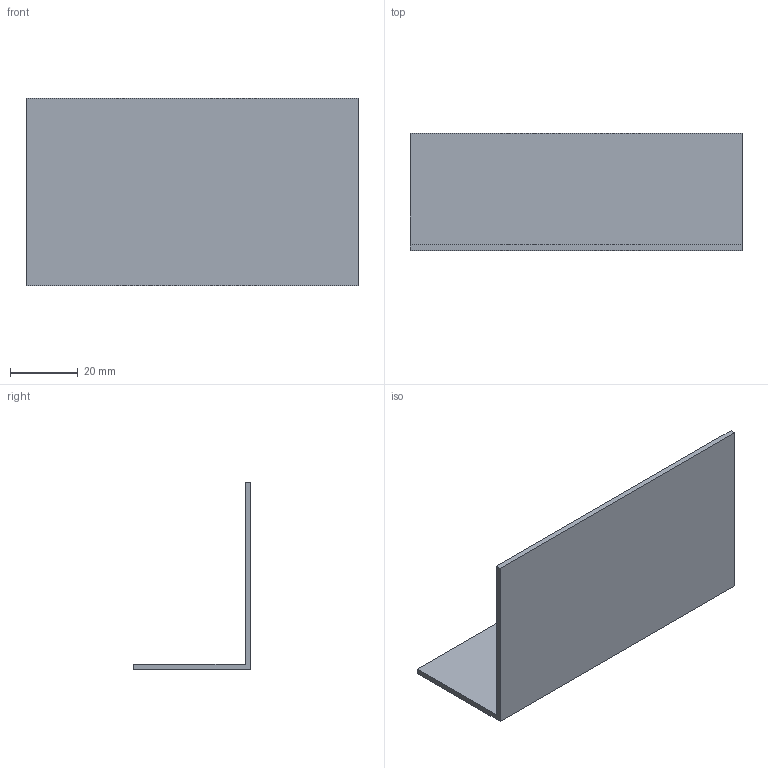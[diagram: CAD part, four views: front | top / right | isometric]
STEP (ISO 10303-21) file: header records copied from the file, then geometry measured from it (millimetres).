
FILE_DESCRIPTION(('Open CASCADE Model'),'2;1');
FILE_NAME('Open CASCADE Shape Model','2026-09-29T12:48:04',('Author'),( 'Open CASCADE'),'Open CASCADE STEP processor 7.9','Open CASCADE 7.9' ,'Unknown');
FILE_SCHEMA(('AUTOMOTIVE_DESIGN { 1 0 10303 214 1 1 1 1 }'));
Length unit declared in the file: millimetre
Products named in the file (1): Open CASCADE STEP translator 7.9 30
Bounding box: 98 x 34.62 x 55.35 mm (x, y, z)
Volume: 13857.2 mm3; surface area: 17917.9 mm2
Topology: 1 solids, 1 shells, 8 faces, 18 edges, 12 vertices
Faces by surface type: plane 8
Entity records: 464 total; most frequent: CARTESIAN_POINT 77, DIRECTION 70, LINE 52, VECTOR 52, ORIENTED_EDGE 36, PCURVE 36, DEFINITIONAL_REPRESENTATION 36, EDGE_CURVE 18
